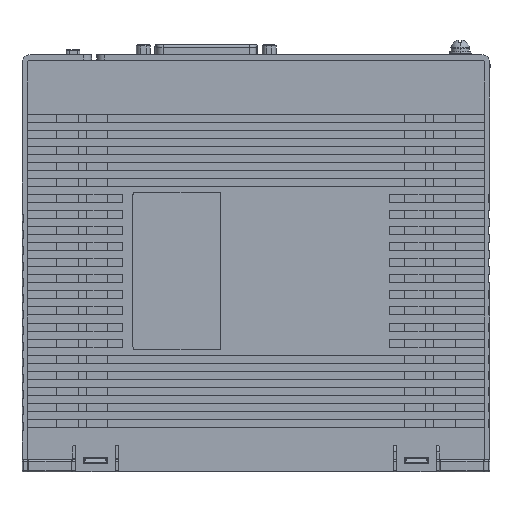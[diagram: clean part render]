
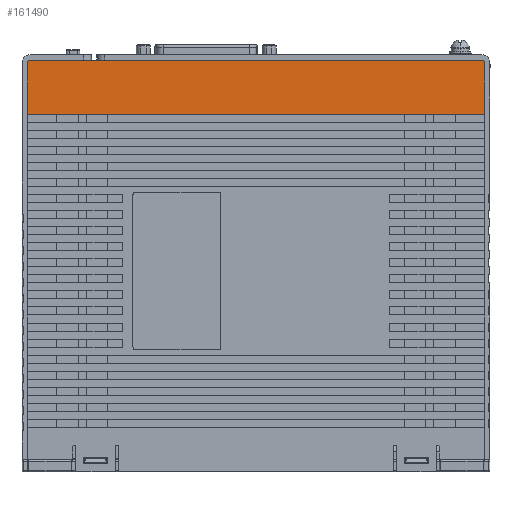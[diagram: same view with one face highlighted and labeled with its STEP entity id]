
A CAD part, left-side view. The second image highlights one B-rep face of the part: STEP entity #161490.
In plain terms, the highlighted planar face has unit normal (-1, 0, 0).
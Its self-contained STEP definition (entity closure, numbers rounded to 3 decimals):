
#41819=DIRECTION('',(0.,0.,-1.));
#41820=VECTOR('',#41819,19.316);
#41821=CARTESIAN_POINT('',(0.,173.,-3.));
#41822=LINE('',#41821,#41820);
#44330=CARTESIAN_POINT('',(0.,172.,-3.));
#44331=DIRECTION('',(1.,0.,0.));
#44332=DIRECTION('',(0.,1.,0.));
#44333=AXIS2_PLACEMENT_3D('',#44330,#44331,#44332);
#44335=DIRECTION('',(0.,-1.,0.));
#44336=VECTOR('',#44335,169.);
#44337=CARTESIAN_POINT('',(0.,172.,-2.));
#44338=LINE('',#44337,#44336);
#44339=CARTESIAN_POINT('',(0.,3.,-3.));
#44340=DIRECTION('',(1.,0.,0.));
#44341=DIRECTION('',(0.,0.,1.));
#44342=AXIS2_PLACEMENT_3D('',#44339,#44340,#44341);
#44344=DIRECTION('',(0.,0.,-1.));
#44345=VECTOR('',#44344,19.316);
#44346=CARTESIAN_POINT('',(0.,2.,-3.));
#44347=LINE('',#44346,#44345);
#44368=DIRECTION('',(0.,-1.,0.));
#44369=VECTOR('',#44368,171.);
#44370=CARTESIAN_POINT('',(0.,173.,-22.316));
#44371=LINE('',#44370,#44369);
#89472=CARTESIAN_POINT('',(0.,2.,-22.316));
#89473=VERTEX_POINT('',#89472);
#89474=CARTESIAN_POINT('',(0.,2.,-3.));
#89475=VERTEX_POINT('',#89474);
#89588=CARTESIAN_POINT('',(0.,173.,-3.));
#89589=VERTEX_POINT('',#89588);
#89590=CARTESIAN_POINT('',(0.,173.,-22.316));
#89591=VERTEX_POINT('',#89590);
#90576=CARTESIAN_POINT('',(0.,3.,-2.));
#90577=VERTEX_POINT('',#90576);
#90578=CARTESIAN_POINT('',(0.,172.,-2.));
#90579=VERTEX_POINT('',#90578);
#161475=CARTESIAN_POINT('',(0.,87.5,-12.158));
#161476=DIRECTION('',(1.,0.,0.));
#161477=DIRECTION('',(0.,-1.,0.));
#161478=AXIS2_PLACEMENT_3D('',#161475,#161476,#161477);
#161479=PLANE('',#161478);
#161481=ORIENTED_EDGE('',*,*,#161480,.F.);
#161482=ORIENTED_EDGE('',*,*,#159198,.F.);
#161484=ORIENTED_EDGE('',*,*,#161483,.T.);
#161485=ORIENTED_EDGE('',*,*,#161437,.T.);
#161486=ORIENTED_EDGE('',*,*,#161467,.T.);
#161487=ORIENTED_EDGE('',*,*,#158569,.T.);
#161488=EDGE_LOOP('',(#161481,#161482,#161484,#161485,#161486,#161487));
#161489=FACE_OUTER_BOUND('',#161488,.F.);
#161490=ADVANCED_FACE('',(#161489),#161479,.F.);
#44334=CIRCLE('',#44333,1.);
#44343=CIRCLE('',#44342,1.);
#158569=EDGE_CURVE('',#89475,#89473,#44347,.T.);
#159198=EDGE_CURVE('',#89589,#89591,#41822,.T.);
#161437=EDGE_CURVE('',#90579,#90577,#44338,.T.);
#161467=EDGE_CURVE('',#90577,#89475,#44343,.T.);
#161480=EDGE_CURVE('',#89591,#89473,#44371,.T.);
#161483=EDGE_CURVE('',#89589,#90579,#44334,.T.);
